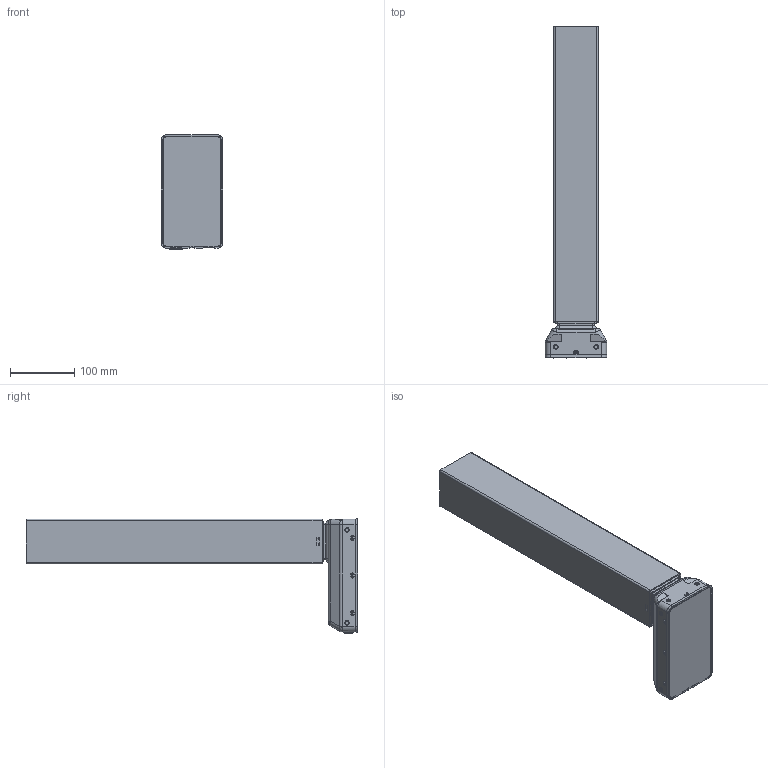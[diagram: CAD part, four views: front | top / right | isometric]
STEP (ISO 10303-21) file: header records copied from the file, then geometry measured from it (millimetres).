
FILE_DESCRIPTION((''),'2;1');
FILE_NAME('DL19_BIFMA_STANDARD_ASM','2019-01-30T14:22:43',('bs'),(''),'CREO PARAMETRIC BY PTC INC, 2017260','CREO PARAMETRIC BY PTC INC, 2017260','');
FILE_SCHEMA(('AUTOMOTIVE_DESIGN { 1 0 10303 214 1 1 1 1 }'));
Length unit declared in the file: millimetre
Products named in the file (4): DL19_MOTORHUS_ST100; DL19_BIFMA_MELLEMPROFIL; DL19_BIFMA_YDERPROFILE; DL19_BIFMA_STANDARD_ASM
Assembly tree (3 placements, depth 2):
  DL19_BIFMA_STANDARD_ASM
    DL19_MOTORHUS_ST100
    DL19_BIFMA_MELLEMPROFIL
    DL19_BIFMA_YDERPROFILE
Bounding box: 96.5 x 518 x 178.6 mm (x, y, z)
Volume: 4783671.2 mm3; surface area: 326612.7 mm2
Topology: 3 solids, 4 shells, 1112 faces, 3168 edges, 2084 vertices
Faces by surface type: plane 448, cylinder 373, cone 143, torus 86, bspline 48, sphere 14
Entity records: 43818 total; most frequent: CARTESIAN_POINT 12474, ORIENTED_EDGE 6298, DIRECTION 6074, EDGE_CURVE 3149, AXIS2_PLACEMENT_3D 2271, VERTEX_POINT 2084, VECTOR 1532, LINE 1532
